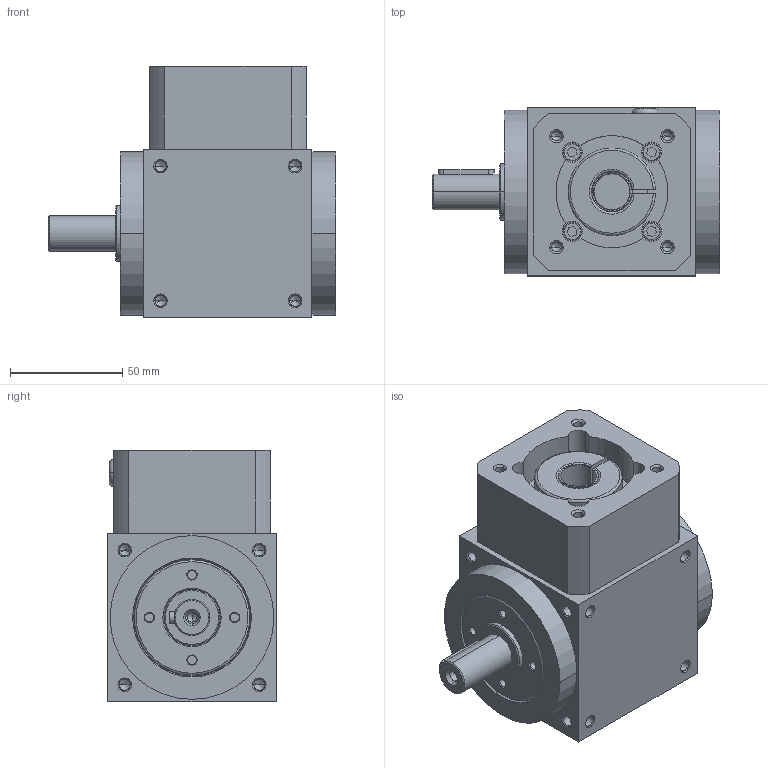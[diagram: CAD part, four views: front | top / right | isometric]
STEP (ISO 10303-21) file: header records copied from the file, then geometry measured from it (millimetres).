
FILE_DESCRIPTION (( 'STEP AP203' ), '1' );
FILE_NAME ('LAT75-A-P2-5070M5.STEP', '2024-11-15T08:50:42', ( '微软用户' ), ( '微软中国' ), 'SwSTEP 2.0', 'SolidWorks 2022', '' );
FILE_SCHEMA (( 'CONFIG_CONTROL_DESIGN' ));
Length unit declared in the file: millimetre
Products named in the file (1): LAT75-A-P2-5070M5
Bounding box: 128 x 75 x 112 mm (x, y, z)
Volume: 659000.2 mm3; surface area: 104844.7 mm2
Topology: 7 solids, 7 shells, 385 faces, 947 edges, 546 vertices
Faces by surface type: cylinder 163, cone 129, plane 77, torus 16
Entity records: 11121 total; most frequent: CARTESIAN_POINT 2273, DIRECTION 1912, ORIENTED_EDGE 1794, EDGE_CURVE 897, AXIS2_PLACEMENT_3D 751, VERTEX_POINT 546, EDGE_LOOP 445, VECTOR 410
